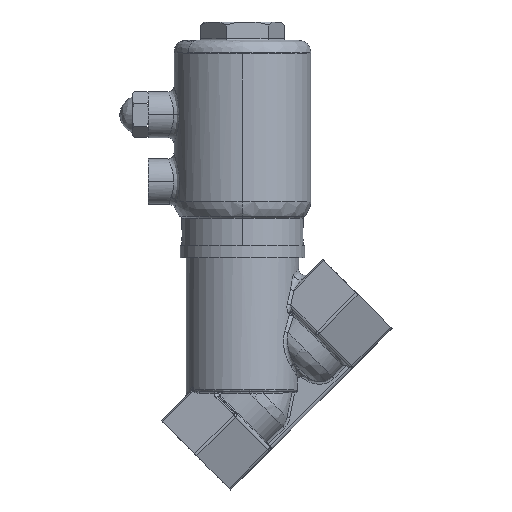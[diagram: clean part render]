
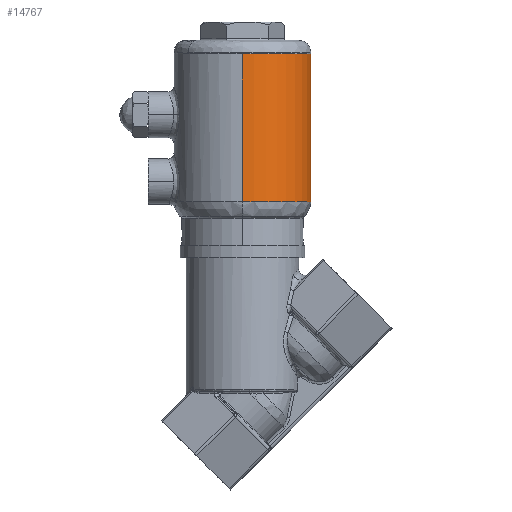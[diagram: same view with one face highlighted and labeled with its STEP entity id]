
A CAD part, top view. The second image highlights one B-rep face of the part: STEP entity #14767.
In plain terms, the highlighted cylindrical face has radius 22.5 mm (diameter 45 mm), a partial arc.
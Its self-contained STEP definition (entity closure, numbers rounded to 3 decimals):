
#2075 = ORIENTED_EDGE ( 'NONE', *, *, #3382, .F. ) ;
#2233 = DIRECTION ( 'NONE',  ( 0., 1., 0. ) ) ;
#2498 = VECTOR ( 'NONE', #7876, 1000. ) ;
#2513 = LINE ( 'NONE', #3049, #2498 ) ;
#2664 = CIRCLE ( 'NONE', #7043, 22.5 ) ;
#2700 = LINE ( 'NONE', #6949, #2713 ) ;
#2713 = VECTOR ( 'NONE', #15522, 1000. ) ;
#2856 = CIRCLE ( 'NONE', #7421, 22.5 ) ;
#3017 = EDGE_LOOP ( 'NONE', ( #12656, #7642, #13335, #2075 ) ) ;
#3049 = CARTESIAN_POINT ( 'NONE',  ( 0., 36.671, -22.5 ) ) ;
#3189 = EDGE_CURVE ( 'NONE', #9753, #14594, #2856, .T. ) ;
#3297 = EDGE_CURVE ( 'NONE', #14594, #12653, #2700, .T. ) ;
#3359 = EDGE_CURVE ( 'NONE', #12653, #8746, #2664, .T. ) ;
#3382 = EDGE_CURVE ( 'NONE', #9753, #8746, #2513, .T. ) ;
#5218 = CARTESIAN_POINT ( 'NONE',  ( 0., 36.671, 0. ) ) ;
#6446 = DIRECTION ( 'NONE',  ( 0., 0., -1. ) ) ;
#6949 = CARTESIAN_POINT ( 'NONE',  ( 0., 36.671, 22.5 ) ) ;
#6974 = DIRECTION ( 'NONE',  ( 0., -1., 0. ) ) ;
#7043 = AXIS2_PLACEMENT_3D ( 'NONE', #9409, #2233, #10639 ) ;
#7421 = AXIS2_PLACEMENT_3D ( 'NONE', #5218, #13743, #6446 ) ;
#7642 = ORIENTED_EDGE ( 'NONE', *, *, #3297, .T. ) ;
#7876 = DIRECTION ( 'NONE',  ( 0., -1., 0. ) ) ;
#8174 = CARTESIAN_POINT ( 'NONE',  ( 0., 36.671, 0. ) ) ;
#8746 = VERTEX_POINT ( 'NONE', #10399 ) ;
#9409 = CARTESIAN_POINT ( 'NONE',  ( 0., -11.925, 0. ) ) ;
#9466 = CARTESIAN_POINT ( 'NONE',  ( 0., -11.925, 22.5 ) ) ;
#9684 = CARTESIAN_POINT ( 'NONE',  ( 0., 36.671, -22.5 ) ) ;
#9753 = VERTEX_POINT ( 'NONE', #9684 ) ;
#10399 = CARTESIAN_POINT ( 'NONE',  ( 0., -11.925, -22.5 ) ) ;
#10412 = DIRECTION ( 'NONE',  ( 0., 0., -1. ) ) ;
#10639 = DIRECTION ( 'NONE',  ( 0., 0., -1. ) ) ;
#12653 = VERTEX_POINT ( 'NONE', #9466 ) ;
#12656 = ORIENTED_EDGE ( 'NONE', *, *, #3189, .T. ) ;
#12800 = AXIS2_PLACEMENT_3D ( 'NONE', #8174, #6974, #10412 ) ;
#13335 = ORIENTED_EDGE ( 'NONE', *, *, #3359, .T. ) ;
#13743 = DIRECTION ( 'NONE',  ( 0., -1., 0. ) ) ;
#14507 = CYLINDRICAL_SURFACE ( 'NONE', #12800, 22.5 ) ;
#14594 = VERTEX_POINT ( 'NONE', #15391 ) ;
#14701 = FACE_OUTER_BOUND ( 'NONE', #3017, .T. ) ;
#14767 = ADVANCED_FACE ( 'NONE', ( #14701 ), #14507, .T. ) ;
#15391 = CARTESIAN_POINT ( 'NONE',  ( 0., 36.671, 22.5 ) ) ;
#15522 = DIRECTION ( 'NONE',  ( 0., -1., 0. ) ) ;
